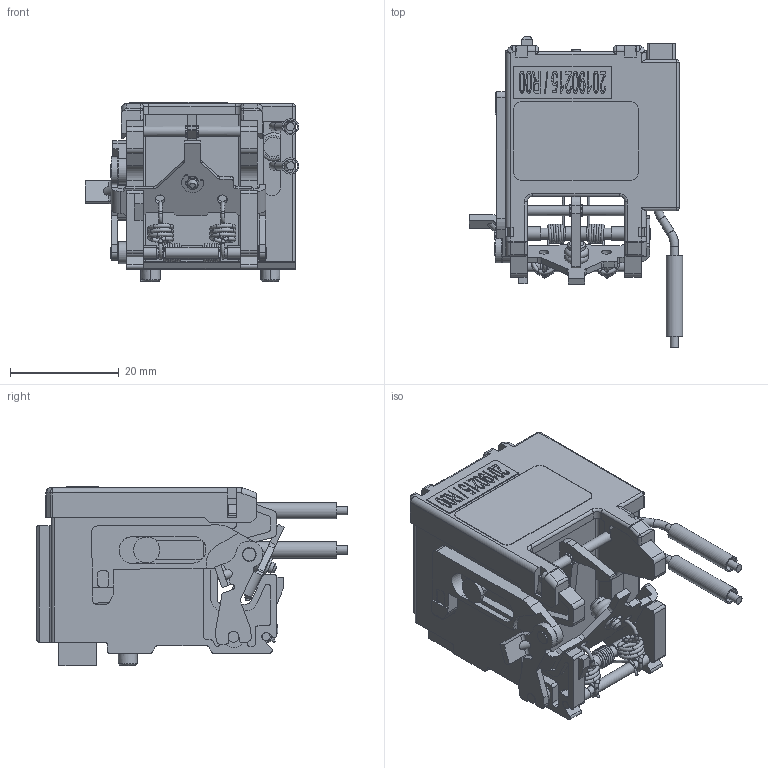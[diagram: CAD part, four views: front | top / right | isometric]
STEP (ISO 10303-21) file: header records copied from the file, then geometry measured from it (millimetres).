
FILE_DESCRIPTION(/* description */ (''),/* implementation_level */ '2;1');
FILE_NAME(/* name */ 'bbb.stp',/* time_stamp */ '2020-06-16T14:11:43+09:00',/* author */ (''),/* organization */ (''),/* preprocessor_version */ 'ST-DEVELOPER v16',/* originating_system */ 'SIEMENS PLM Software NX 11.0',/* authorisation */ '');
FILE_SCHEMA (('AP203_CONFIGURATION_CONTROLLED_3D_DESIGN_OF_MECHANICAL_PARTS_AND_ASSEMBLIES_MIM_LF { 1 0 10303 403 2 1 2}'));
Length unit declared in the file: millimetre
Products named in the file (1): bbb
Bounding box: 39.39 x 57.29 x 33 mm (x, y, z)
Volume: 28166.7 mm3; surface area: 15689.8 mm2
Topology: 26 solids, 26 shells, 1014 faces, 2649 edges, 1704 vertices
Faces by surface type: plane 550, cylinder 330, torus 64, extrusion 37, bspline 17, cone 9, sphere 7
Full cylindrical faces by diameter (mm): 0.05 x1, 0.1 x1, 0.45 x5, 0.5 x5, 0.7 x8, 0.8 x5, 1.5 x12, 1.65 x1, 1.7 x1, 1.8 x2, 1.85 x1, 2 x9, 2.1 x1, 2.4 x1, 2.5 x6, 3 x2, 3.3 x1, 4 x1
Entity records: 33952 total; most frequent: CARTESIAN_POINT 8295, DIRECTION 5078, ORIENTED_EDGE 4980, EDGE_CURVE 2490, AXIS2_PLACEMENT_3D 1696, VERTEX_POINT 1692, VECTOR 1686, LINE 1649
